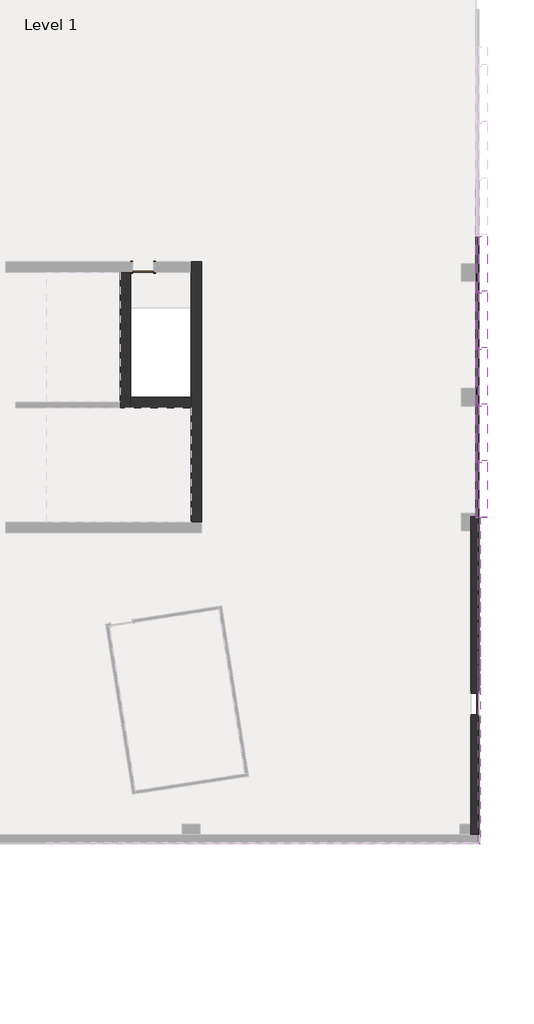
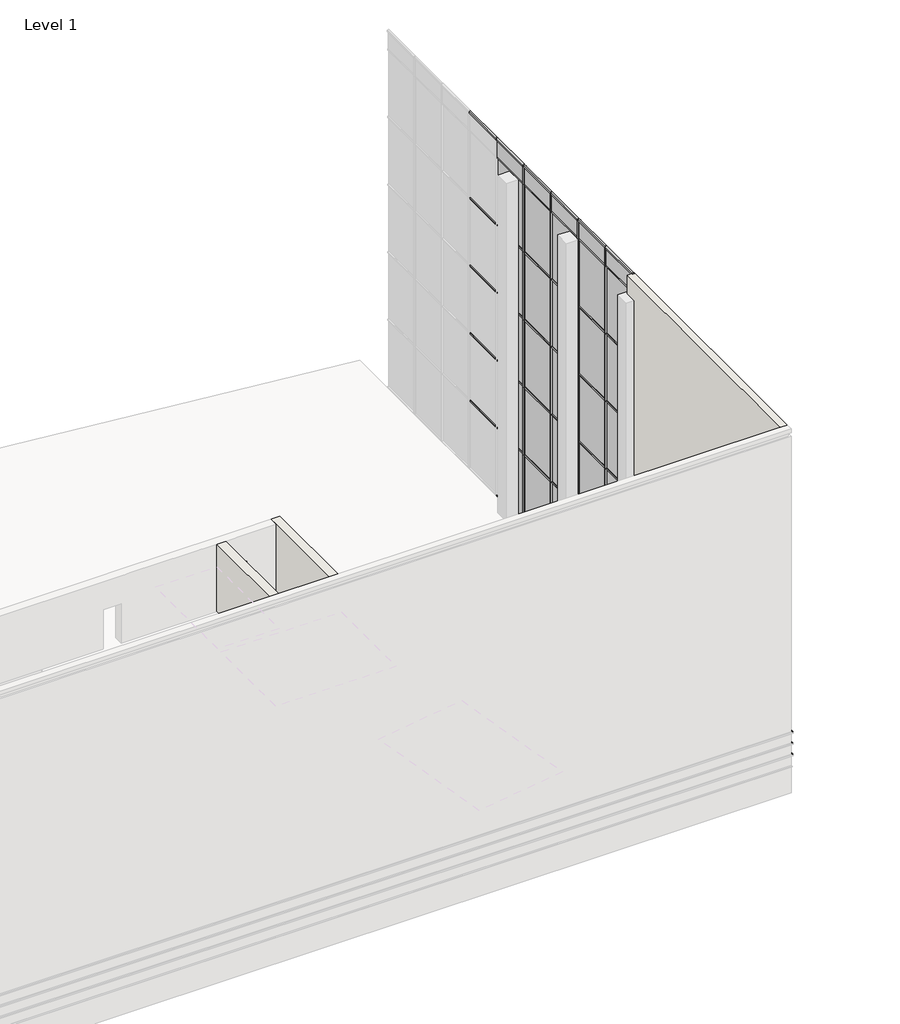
# One storey, part 8 of 23: 70 members, 30 plates, 4 walls, 3 proxies, 1 door.
"""IFC4 building model written with IfcOpenShell, lengths in millimetres."""

from ifc_helpers import new_model, si_unit, frame, origin, origin_with_axes, place, context, project, spatial, polyline, outline, extrude, faceted_brep, transform, mapped, element, save
from components import door_3c99239a, member_4178592a, member_8dc9af40, member_0491a5d0, member_26e31a6d, member_a26b4311, member_810865a4, member_90793d7c, member_64b167af, system_panel_glazed_bb983545, system_panel_solid_a8b18003

model = new_model("IFC4")

# Units and contexts
model_context = context("Model", 3, world=origin())
ifc_project = project(units=[si_unit("LENGTHUNIT", "METRE", prefix="MILLI")], contexts=[model_context])

# Site, building, storey
site = spatial("IfcSite", under=ifc_project)
building = spatial("IfcBuilding", under=site)
storey = spatial("IfcBuildingStorey", under=building, Name="Level 1", Elevation=0.0)

# Proxies
placement = place(None, origin())
element("IfcBuildingElementProxy", 1, Name="Reveals", at=placement, inside=storey, context=model_context, shape_type="SweptSolid", body=[
    extrude(outline(polyline([(15157.6054088, -14142.3728492), (15249.6804088, -14142.3728492), (15249.6804088, -21686.0488327), (15157.6054088, -21686.0488327), (15157.6054088, -14142.3728492)])), frame((0.0, 0.0, 1625.6), z_axis=(0.0, 0.0, 1.0), x_axis=(1.0, 0.0, 0.0)), (0.0, 0.0, 1.0), 67.7333333),
    extrude(outline(polyline([(15157.6054088, -22600.4488327), (15249.6804088, -22600.4488327), (15249.6804088, -28148.8853492), (15157.6054088, -28056.8103492), (15157.6054088, -22600.4488327)])), frame((0.0, 0.0, 1625.6), z_axis=(0.0, 0.0, 1.0), x_axis=(1.0, 0.0, 0.0)), (0.0, 0.0, 1.0), 67.7333333),
])
element("IfcBuildingElementProxy", 2, Name="Reveals", at=placement, inside=storey, context=model_context, shape_type="SweptSolid", body=[
    extrude(outline(polyline([(15157.6054088, -14142.3728492), (15249.6804088, -14142.3728492), (15249.6804088, -28148.8853492), (15157.6054088, -28056.8103492), (15157.6054088, -14142.3728492)])), frame((0.0, 0.0, 2235.2), z_axis=(0.0, 0.0, 1.0), x_axis=(1.0, 0.0, 0.0)), (0.0, 0.0, 1.0), 67.7333333),
])
element("IfcBuildingElementProxy", 3, Name="Reveals", at=placement, inside=storey, context=model_context, shape_type="SweptSolid", body=[
    extrude(outline(polyline([(15157.6054088, -14142.3728492), (15249.6804088, -14142.3728492), (15249.6804088, -28148.8853492), (15157.6054088, -28056.8103492), (15157.6054088, -14142.3728492)])), frame((0.0, 0.0, 2844.8), z_axis=(0.0, 0.0, 1.0), x_axis=(1.0, 0.0, 0.0)), (0.0, 0.0, 1.0), 67.7333333),
])

# Door
door_shape = door_3c99239a(model_context)
element("IfcDoor", 4, ObjectType="Single-Flush : 36\" x 84\"", at=placement, inside=storey, context=model_context, shape_type="MappedRepresentation", body=[
    mapped(door_shape, transform((817.7000645, -3469.6103492, 0.0), x_axis=(-1.0, 0.0, 0.0), y_axis=(0.0, -1.0, 0.0), z_axis=(0.0, 0.0, 1.0))),
])

# Members
member_shape = member_4178592a(model_context)
element("IfcMember", 5, ObjectType="Quad Corner Mullion : 5\" x 5\" Quad Corner", at=placement, inside=storey, context=model_context, shape_type="MappedRepresentation", body=[
    mapped(member_shape, transform((15106.8054088, -14174.1228492, 19304.0), x_axis=(0.0, 0.0, 1.0), y_axis=(-1.0, 0.0, 0.0), z_axis=(0.0, -1.0, 0.0))),
])
element("IfcMember", 6, ObjectType="Quad Corner Mullion : 5\" x 5\" Quad Corner", at=placement, inside=storey, context=model_context, shape_type="MappedRepresentation", body=[
    mapped(member_shape, transform((15106.8054088, -2083.3335112, 19304.0), x_axis=(0.0, 0.0, 1.0), y_axis=(-1.0, 0.0, 0.0), z_axis=(0.0, -1.0, 0.0))),
])
element("IfcMember", 7, ObjectType="Quad Corner Mullion : 5\" x 5\" Quad Corner", at=placement, inside=storey, context=model_context, shape_type="MappedRepresentation", body=[
    mapped(member_shape, transform((15106.8054088, -4501.4913788, 19304.0), x_axis=(0.0, 0.0, 1.0), y_axis=(-1.0, 0.0, 0.0), z_axis=(0.0, -1.0, 0.0))),
])
element("IfcMember", 8, ObjectType="Quad Corner Mullion : 5\" x 5\" Quad Corner", at=placement, inside=storey, context=model_context, shape_type="MappedRepresentation", body=[
    mapped(member_shape, transform((15106.8054088, -6919.6492464, 19304.0), x_axis=(0.0, 0.0, 1.0), y_axis=(-1.0, 0.0, 0.0), z_axis=(0.0, -1.0, 0.0))),
])
element("IfcMember", 9, ObjectType="Quad Corner Mullion : 5\" x 5\" Quad Corner", at=placement, inside=storey, context=model_context, shape_type="MappedRepresentation", body=[
    mapped(member_shape, transform((15106.8054088, -9337.807114, 19304.0), x_axis=(0.0, 0.0, 1.0), y_axis=(-1.0, 0.0, 0.0), z_axis=(0.0, -1.0, 0.0))),
])
element("IfcMember", 10, ObjectType="Quad Corner Mullion : 5\" x 5\" Quad Corner", at=placement, inside=storey, context=model_context, shape_type="MappedRepresentation", body=[
    mapped(member_shape, transform((15106.8054088, -11755.9649816, 19304.0), x_axis=(0.0, 0.0, 1.0), y_axis=(-1.0, 0.0, 0.0), z_axis=(0.0, -1.0, 0.0))),
])
element("IfcMember", 11, ObjectType="Quad Corner Mullion : 5\" x 5\" Quad Corner", at=placement, inside=storey, context=model_context, shape_type="MappedRepresentation", body=[
    mapped(member_shape, transform((15106.8054088, -2146.8335112, 0.0), x_axis=(0.0, 0.0, -1.0), y_axis=(-1.0, 0.0, 0.0), z_axis=(0.0, 1.0, 0.0))),
])
element("IfcMember", 12, ObjectType="Quad Corner Mullion : 5\" x 5\" Quad Corner", at=placement, inside=storey, context=model_context, shape_type="MappedRepresentation", body=[
    mapped(member_shape, transform((15106.8054088, -4564.9913788, 0.0), x_axis=(0.0, 0.0, -1.0), y_axis=(-1.0, 0.0, 0.0), z_axis=(0.0, 1.0, 0.0))),
])
element("IfcMember", 13, ObjectType="Quad Corner Mullion : 5\" x 5\" Quad Corner", at=placement, inside=storey, context=model_context, shape_type="MappedRepresentation", body=[
    mapped(member_shape, transform((15106.8054088, -6983.1492464, 0.0), x_axis=(0.0, 0.0, -1.0), y_axis=(-1.0, 0.0, 0.0), z_axis=(0.0, 1.0, 0.0))),
])
element("IfcMember", 14, ObjectType="Quad Corner Mullion : 5\" x 5\" Quad Corner", at=placement, inside=storey, context=model_context, shape_type="MappedRepresentation", body=[
    mapped(member_shape, transform((15106.8054088, -9401.307114, 0.0), x_axis=(0.0, 0.0, -1.0), y_axis=(-1.0, 0.0, 0.0), z_axis=(0.0, 1.0, 0.0))),
])
element("IfcMember", 15, ObjectType="Quad Corner Mullion : 5\" x 5\" Quad Corner", at=placement, inside=storey, context=model_context, shape_type="MappedRepresentation", body=[
    mapped(member_shape, transform((15106.8054088, -11819.4649816, 0.0), x_axis=(0.0, 0.0, -1.0), y_axis=(-1.0, 0.0, 0.0), z_axis=(0.0, 1.0, 0.0))),
])
member_2_shape = member_8dc9af40(model_context)
element("IfcMember", 16, ObjectType="Rectangular Mullion : 1.5\" x 2.5\" rectangular", at=placement, inside=storey, context=model_context, shape_type="MappedRepresentation", body=[
    mapped(member_2_shape, transform((15106.8054088, -14212.2228492, 3666.6228811), x_axis=(0.0, -1.0, 0.0), y_axis=(-1.0, 0.0, 0.0), z_axis=(0.0, 0.0, -1.0))),
])
element("IfcMember", 17, ObjectType="Rectangular Mullion : 1.5\" x 2.5\" rectangular", at=placement, inside=storey, context=model_context, shape_type="MappedRepresentation", body=[
    mapped(member_2_shape, transform((15106.8054088, -14212.2228492, 7324.2228811), x_axis=(0.0, -1.0, 0.0), y_axis=(-1.0, 0.0, 0.0), z_axis=(0.0, 0.0, -1.0))),
])
element("IfcMember", 18, ObjectType="Rectangular Mullion : 1.5\" x 2.5\" rectangular", at=placement, inside=storey, context=model_context, shape_type="MappedRepresentation", body=[
    mapped(member_2_shape, transform((15106.8054088, -14212.2228492, 10981.8228811), x_axis=(0.0, -1.0, 0.0), y_axis=(-1.0, 0.0, 0.0), z_axis=(0.0, 0.0, -1.0))),
])
element("IfcMember", 19, ObjectType="Rectangular Mullion : 1.5\" x 2.5\" rectangular", at=placement, inside=storey, context=model_context, shape_type="MappedRepresentation", body=[
    mapped(member_2_shape, transform((15106.8054088, -14212.2228492, 14639.4228811), x_axis=(0.0, -1.0, 0.0), y_axis=(-1.0, 0.0, 0.0), z_axis=(0.0, 0.0, -1.0))),
])
member_3_shape = member_0491a5d0(model_context)
element("IfcMember", 20, ObjectType="Rectangular Mullion : 1.5\" x 2.5\" rectangular", at=placement, inside=storey, context=model_context, shape_type="MappedRepresentation", body=[
    mapped(member_3_shape, transform((15106.8054088, -14212.2228492, 0.0), x_axis=(0.0, -1.0, 0.0), y_axis=(-1.0, 0.0, 0.0), z_axis=(0.0, 0.0, -1.0))),
])
member_4_shape = member_26e31a6d(model_context)
element("IfcMember", 21, ObjectType="Rectangular Mullion : 1.5\" x 2.5\" rectangular", at=placement, inside=storey, context=model_context, shape_type="MappedRepresentation", body=[
    mapped(member_4_shape, transform((15106.8054088, -14212.2228492, 18297.0228811), x_axis=(0.0, -1.0, 0.0), y_axis=(-1.0, 0.0, 0.0), z_axis=(0.0, 0.0, -1.0))),
])
member_5_shape = member_a26b4311(model_context)
element("IfcMember", 22, ObjectType="Rectangular Mullion : 2.5\" x 18\" rectangular", at=placement, inside=storey, context=model_context, shape_type="MappedRepresentation", body=[
    mapped(member_5_shape, transform((15106.8054088, -4501.4913788, 3666.6228811), x_axis=(0.0, 0.0, 1.0), y_axis=(-1.0, 0.0, 0.0), z_axis=(0.0, -1.0, 0.0))),
])
element("IfcMember", 23, ObjectType="Rectangular Mullion : 2.5\" x 18\" rectangular", at=placement, inside=storey, context=model_context, shape_type="MappedRepresentation", body=[
    mapped(member_5_shape, transform((15106.8054088, -2083.3335112, 3666.6228811), x_axis=(0.0, 0.0, 1.0), y_axis=(-1.0, 0.0, 0.0), z_axis=(0.0, -1.0, 0.0))),
])
element("IfcMember", 24, ObjectType="Rectangular Mullion : 2.5\" x 18\" rectangular", at=placement, inside=storey, context=model_context, shape_type="MappedRepresentation", body=[
    mapped(member_5_shape, transform((15106.8054088, -6919.6492464, 3666.6228811), x_axis=(0.0, 0.0, 1.0), y_axis=(-1.0, 0.0, 0.0), z_axis=(0.0, -1.0, 0.0))),
])
element("IfcMember", 25, ObjectType="Rectangular Mullion : 2.5\" x 18\" rectangular", at=placement, inside=storey, context=model_context, shape_type="MappedRepresentation", body=[
    mapped(member_5_shape, transform((15106.8054088, -9337.807114, 3666.6228811), x_axis=(0.0, 0.0, 1.0), y_axis=(-1.0, 0.0, 0.0), z_axis=(0.0, -1.0, 0.0))),
])
element("IfcMember", 26, ObjectType="Rectangular Mullion : 2.5\" x 18\" rectangular", at=placement, inside=storey, context=model_context, shape_type="MappedRepresentation", body=[
    mapped(member_5_shape, transform((15106.8054088, -11755.9649816, 3666.6228811), x_axis=(0.0, 0.0, 1.0), y_axis=(-1.0, 0.0, 0.0), z_axis=(0.0, -1.0, 0.0))),
])
element("IfcMember", 27, ObjectType="Rectangular Mullion : 2.5\" x 18\" rectangular", at=placement, inside=storey, context=model_context, shape_type="MappedRepresentation", body=[
    mapped(member_5_shape, transform((15106.8054088, -14174.1228492, 3666.6228811), x_axis=(0.0, 0.0, 1.0), y_axis=(-1.0, 0.0, 0.0), z_axis=(0.0, -1.0, 0.0))),
])
element("IfcMember", 28, ObjectType="Rectangular Mullion : 2.5\" x 18\" rectangular", at=placement, inside=storey, context=model_context, shape_type="MappedRepresentation", body=[
    mapped(member_5_shape, transform((15106.8054088, -4501.4913788, 7324.2228811), x_axis=(0.0, 0.0, 1.0), y_axis=(-1.0, 0.0, 0.0), z_axis=(0.0, -1.0, 0.0))),
])
element("IfcMember", 29, ObjectType="Rectangular Mullion : 2.5\" x 18\" rectangular", at=placement, inside=storey, context=model_context, shape_type="MappedRepresentation", body=[
    mapped(member_5_shape, transform((15106.8054088, -2083.3335112, 7324.2228811), x_axis=(0.0, 0.0, 1.0), y_axis=(-1.0, 0.0, 0.0), z_axis=(0.0, -1.0, 0.0))),
])
element("IfcMember", 30, ObjectType="Rectangular Mullion : 2.5\" x 18\" rectangular", at=placement, inside=storey, context=model_context, shape_type="MappedRepresentation", body=[
    mapped(member_5_shape, transform((15106.8054088, -6919.6492464, 7324.2228811), x_axis=(0.0, 0.0, 1.0), y_axis=(-1.0, 0.0, 0.0), z_axis=(0.0, -1.0, 0.0))),
])
element("IfcMember", 31, ObjectType="Rectangular Mullion : 2.5\" x 18\" rectangular", at=placement, inside=storey, context=model_context, shape_type="MappedRepresentation", body=[
    mapped(member_5_shape, transform((15106.8054088, -9337.807114, 7324.2228811), x_axis=(0.0, 0.0, 1.0), y_axis=(-1.0, 0.0, 0.0), z_axis=(0.0, -1.0, 0.0))),
])
element("IfcMember", 32, ObjectType="Rectangular Mullion : 2.5\" x 18\" rectangular", at=placement, inside=storey, context=model_context, shape_type="MappedRepresentation", body=[
    mapped(member_5_shape, transform((15106.8054088, -11755.9649816, 7324.2228811), x_axis=(0.0, 0.0, 1.0), y_axis=(-1.0, 0.0, 0.0), z_axis=(0.0, -1.0, 0.0))),
])
element("IfcMember", 33, ObjectType="Rectangular Mullion : 2.5\" x 18\" rectangular", at=placement, inside=storey, context=model_context, shape_type="MappedRepresentation", body=[
    mapped(member_5_shape, transform((15106.8054088, -14174.1228492, 7324.2228811), x_axis=(0.0, 0.0, 1.0), y_axis=(-1.0, 0.0, 0.0), z_axis=(0.0, -1.0, 0.0))),
])
element("IfcMember", 34, ObjectType="Rectangular Mullion : 2.5\" x 18\" rectangular", at=placement, inside=storey, context=model_context, shape_type="MappedRepresentation", body=[
    mapped(member_5_shape, transform((15106.8054088, -4501.4913788, 10981.8228811), x_axis=(0.0, 0.0, 1.0), y_axis=(-1.0, 0.0, 0.0), z_axis=(0.0, -1.0, 0.0))),
])
element("IfcMember", 35, ObjectType="Rectangular Mullion : 2.5\" x 18\" rectangular", at=placement, inside=storey, context=model_context, shape_type="MappedRepresentation", body=[
    mapped(member_5_shape, transform((15106.8054088, -2083.3335112, 10981.8228811), x_axis=(0.0, 0.0, 1.0), y_axis=(-1.0, 0.0, 0.0), z_axis=(0.0, -1.0, 0.0))),
])
element("IfcMember", 36, ObjectType="Rectangular Mullion : 2.5\" x 18\" rectangular", at=placement, inside=storey, context=model_context, shape_type="MappedRepresentation", body=[
    mapped(member_5_shape, transform((15106.8054088, -6919.6492464, 10981.8228811), x_axis=(0.0, 0.0, 1.0), y_axis=(-1.0, 0.0, 0.0), z_axis=(0.0, -1.0, 0.0))),
])
element("IfcMember", 37, ObjectType="Rectangular Mullion : 2.5\" x 18\" rectangular", at=placement, inside=storey, context=model_context, shape_type="MappedRepresentation", body=[
    mapped(member_5_shape, transform((15106.8054088, -9337.807114, 10981.8228811), x_axis=(0.0, 0.0, 1.0), y_axis=(-1.0, 0.0, 0.0), z_axis=(0.0, -1.0, 0.0))),
])
element("IfcMember", 38, ObjectType="Rectangular Mullion : 2.5\" x 18\" rectangular", at=placement, inside=storey, context=model_context, shape_type="MappedRepresentation", body=[
    mapped(member_5_shape, transform((15106.8054088, -11755.9649816, 10981.8228811), x_axis=(0.0, 0.0, 1.0), y_axis=(-1.0, 0.0, 0.0), z_axis=(0.0, -1.0, 0.0))),
])
element("IfcMember", 39, ObjectType="Rectangular Mullion : 2.5\" x 18\" rectangular", at=placement, inside=storey, context=model_context, shape_type="MappedRepresentation", body=[
    mapped(member_5_shape, transform((15106.8054088, -14174.1228492, 10981.8228811), x_axis=(0.0, 0.0, 1.0), y_axis=(-1.0, 0.0, 0.0), z_axis=(0.0, -1.0, 0.0))),
])
element("IfcMember", 40, ObjectType="Rectangular Mullion : 2.5\" x 18\" rectangular", at=placement, inside=storey, context=model_context, shape_type="MappedRepresentation", body=[
    mapped(member_5_shape, transform((15106.8054088, -4501.4913788, 14639.4228811), x_axis=(0.0, 0.0, 1.0), y_axis=(-1.0, 0.0, 0.0), z_axis=(0.0, -1.0, 0.0))),
])
element("IfcMember", 41, ObjectType="Rectangular Mullion : 2.5\" x 18\" rectangular", at=placement, inside=storey, context=model_context, shape_type="MappedRepresentation", body=[
    mapped(member_5_shape, transform((15106.8054088, -2083.3335112, 14639.4228811), x_axis=(0.0, 0.0, 1.0), y_axis=(-1.0, 0.0, 0.0), z_axis=(0.0, -1.0, 0.0))),
])
element("IfcMember", 42, ObjectType="Rectangular Mullion : 2.5\" x 18\" rectangular", at=placement, inside=storey, context=model_context, shape_type="MappedRepresentation", body=[
    mapped(member_5_shape, transform((15106.8054088, -6919.6492464, 14639.4228811), x_axis=(0.0, 0.0, 1.0), y_axis=(-1.0, 0.0, 0.0), z_axis=(0.0, -1.0, 0.0))),
])
element("IfcMember", 43, ObjectType="Rectangular Mullion : 2.5\" x 18\" rectangular", at=placement, inside=storey, context=model_context, shape_type="MappedRepresentation", body=[
    mapped(member_5_shape, transform((15106.8054088, -9337.807114, 14639.4228811), x_axis=(0.0, 0.0, 1.0), y_axis=(-1.0, 0.0, 0.0), z_axis=(0.0, -1.0, 0.0))),
])
element("IfcMember", 44, ObjectType="Rectangular Mullion : 2.5\" x 18\" rectangular", at=placement, inside=storey, context=model_context, shape_type="MappedRepresentation", body=[
    mapped(member_5_shape, transform((15106.8054088, -11755.9649816, 14639.4228811), x_axis=(0.0, 0.0, 1.0), y_axis=(-1.0, 0.0, 0.0), z_axis=(0.0, -1.0, 0.0))),
])
element("IfcMember", 45, ObjectType="Rectangular Mullion : 2.5\" x 18\" rectangular", at=placement, inside=storey, context=model_context, shape_type="MappedRepresentation", body=[
    mapped(member_5_shape, transform((15106.8054088, -14174.1228492, 14639.4228811), x_axis=(0.0, 0.0, 1.0), y_axis=(-1.0, 0.0, 0.0), z_axis=(0.0, -1.0, 0.0))),
])
element("IfcMember", 46, ObjectType="Rectangular Mullion : 2.5\" x 18\" rectangular", at=placement, inside=storey, context=model_context, shape_type="MappedRepresentation", body=[
    mapped(member_5_shape, transform((15106.8054088, -4501.4913788, 18297.0228811), x_axis=(0.0, 0.0, 1.0), y_axis=(-1.0, 0.0, 0.0), z_axis=(0.0, -1.0, 0.0))),
])
element("IfcMember", 47, ObjectType="Rectangular Mullion : 2.5\" x 18\" rectangular", at=placement, inside=storey, context=model_context, shape_type="MappedRepresentation", body=[
    mapped(member_5_shape, transform((15106.8054088, -6919.6492464, 18297.0228811), x_axis=(0.0, 0.0, 1.0), y_axis=(-1.0, 0.0, 0.0), z_axis=(0.0, -1.0, 0.0))),
])
element("IfcMember", 48, ObjectType="Rectangular Mullion : 2.5\" x 18\" rectangular", at=placement, inside=storey, context=model_context, shape_type="MappedRepresentation", body=[
    mapped(member_5_shape, transform((15106.8054088, -9337.807114, 18297.0228811), x_axis=(0.0, 0.0, 1.0), y_axis=(-1.0, 0.0, 0.0), z_axis=(0.0, -1.0, 0.0))),
])
element("IfcMember", 49, ObjectType="Rectangular Mullion : 2.5\" x 18\" rectangular", at=placement, inside=storey, context=model_context, shape_type="MappedRepresentation", body=[
    mapped(member_5_shape, transform((15106.8054088, -11755.9649816, 18297.0228811), x_axis=(0.0, 0.0, 1.0), y_axis=(-1.0, 0.0, 0.0), z_axis=(0.0, -1.0, 0.0))),
])
element("IfcMember", 50, ObjectType="Rectangular Mullion : 2.5\" x 18\" rectangular", at=placement, inside=storey, context=model_context, shape_type="MappedRepresentation", body=[
    mapped(member_5_shape, transform((15106.8054088, -14174.1228492, 18297.0228811), x_axis=(0.0, 0.0, 1.0), y_axis=(-1.0, 0.0, 0.0), z_axis=(0.0, -1.0, 0.0))),
])
member_6_shape = member_810865a4(model_context)
element("IfcMember", 51, ObjectType="Rectangular Mullion : 2.5\" x 5\" rectangular", at=placement, inside=storey, context=model_context, shape_type="MappedRepresentation", body=[
    mapped(member_6_shape, transform((15106.8054088, -9369.557114, 3666.6228811), x_axis=(0.0, -1.0, 0.0), y_axis=(-1.0, 0.0, 0.0), z_axis=(0.0, 0.0, -1.0))),
])
element("IfcMember", 52, ObjectType="Rectangular Mullion : 2.5\" x 5\" rectangular", at=placement, inside=storey, context=model_context, shape_type="MappedRepresentation", body=[
    mapped(member_6_shape, transform((15106.8054088, -4533.2413788, 3666.6228811), x_axis=(0.0, -1.0, 0.0), y_axis=(-1.0, 0.0, 0.0), z_axis=(0.0, 0.0, -1.0))),
])
element("IfcMember", 53, ObjectType="Rectangular Mullion : 2.5\" x 5\" rectangular", at=placement, inside=storey, context=model_context, shape_type="MappedRepresentation", body=[
    mapped(member_6_shape, transform((15106.8054088, -6951.3992464, 3666.6228811), x_axis=(0.0, -1.0, 0.0), y_axis=(-1.0, 0.0, 0.0), z_axis=(0.0, 0.0, -1.0))),
])
element("IfcMember", 54, ObjectType="Rectangular Mullion : 2.5\" x 5\" rectangular", at=placement, inside=storey, context=model_context, shape_type="MappedRepresentation", body=[
    mapped(member_6_shape, transform((15106.8054088, -11787.7149816, 3666.6228811), x_axis=(0.0, -1.0, 0.0), y_axis=(-1.0, 0.0, 0.0), z_axis=(0.0, 0.0, -1.0))),
])
element("IfcMember", 55, ObjectType="Rectangular Mullion : 2.5\" x 5\" rectangular", at=placement, inside=storey, context=model_context, shape_type="MappedRepresentation", body=[
    mapped(member_6_shape, transform((15106.8054088, -9369.557114, 7324.2228811), x_axis=(0.0, -1.0, 0.0), y_axis=(-1.0, 0.0, 0.0), z_axis=(0.0, 0.0, -1.0))),
])
element("IfcMember", 56, ObjectType="Rectangular Mullion : 2.5\" x 5\" rectangular", at=placement, inside=storey, context=model_context, shape_type="MappedRepresentation", body=[
    mapped(member_6_shape, transform((15106.8054088, -4533.2413788, 7324.2228811), x_axis=(0.0, -1.0, 0.0), y_axis=(-1.0, 0.0, 0.0), z_axis=(0.0, 0.0, -1.0))),
])
element("IfcMember", 57, ObjectType="Rectangular Mullion : 2.5\" x 5\" rectangular", at=placement, inside=storey, context=model_context, shape_type="MappedRepresentation", body=[
    mapped(member_6_shape, transform((15106.8054088, -6951.3992464, 7324.2228811), x_axis=(0.0, -1.0, 0.0), y_axis=(-1.0, 0.0, 0.0), z_axis=(0.0, 0.0, -1.0))),
])
element("IfcMember", 58, ObjectType="Rectangular Mullion : 2.5\" x 5\" rectangular", at=placement, inside=storey, context=model_context, shape_type="MappedRepresentation", body=[
    mapped(member_6_shape, transform((15106.8054088, -11787.7149816, 7324.2228811), x_axis=(0.0, -1.0, 0.0), y_axis=(-1.0, 0.0, 0.0), z_axis=(0.0, 0.0, -1.0))),
])
element("IfcMember", 59, ObjectType="Rectangular Mullion : 2.5\" x 5\" rectangular", at=placement, inside=storey, context=model_context, shape_type="MappedRepresentation", body=[
    mapped(member_6_shape, transform((15106.8054088, -9369.557114, 10981.8228811), x_axis=(0.0, -1.0, 0.0), y_axis=(-1.0, 0.0, 0.0), z_axis=(0.0, 0.0, -1.0))),
])
element("IfcMember", 60, ObjectType="Rectangular Mullion : 2.5\" x 5\" rectangular", at=placement, inside=storey, context=model_context, shape_type="MappedRepresentation", body=[
    mapped(member_6_shape, transform((15106.8054088, -4533.2413788, 10981.8228811), x_axis=(0.0, -1.0, 0.0), y_axis=(-1.0, 0.0, 0.0), z_axis=(0.0, 0.0, -1.0))),
])
element("IfcMember", 61, ObjectType="Rectangular Mullion : 2.5\" x 5\" rectangular", at=placement, inside=storey, context=model_context, shape_type="MappedRepresentation", body=[
    mapped(member_6_shape, transform((15106.8054088, -6951.3992464, 10981.8228811), x_axis=(0.0, -1.0, 0.0), y_axis=(-1.0, 0.0, 0.0), z_axis=(0.0, 0.0, -1.0))),
])
element("IfcMember", 62, ObjectType="Rectangular Mullion : 2.5\" x 5\" rectangular", at=placement, inside=storey, context=model_context, shape_type="MappedRepresentation", body=[
    mapped(member_6_shape, transform((15106.8054088, -11787.7149816, 10981.8228811), x_axis=(0.0, -1.0, 0.0), y_axis=(-1.0, 0.0, 0.0), z_axis=(0.0, 0.0, -1.0))),
])
element("IfcMember", 63, ObjectType="Rectangular Mullion : 2.5\" x 5\" rectangular", at=placement, inside=storey, context=model_context, shape_type="MappedRepresentation", body=[
    mapped(member_6_shape, transform((15106.8054088, -9369.557114, 14639.4228811), x_axis=(0.0, -1.0, 0.0), y_axis=(-1.0, 0.0, 0.0), z_axis=(0.0, 0.0, -1.0))),
])
element("IfcMember", 64, ObjectType="Rectangular Mullion : 2.5\" x 5\" rectangular", at=placement, inside=storey, context=model_context, shape_type="MappedRepresentation", body=[
    mapped(member_6_shape, transform((15106.8054088, -4533.2413788, 14639.4228811), x_axis=(0.0, -1.0, 0.0), y_axis=(-1.0, 0.0, 0.0), z_axis=(0.0, 0.0, -1.0))),
])
element("IfcMember", 65, ObjectType="Rectangular Mullion : 2.5\" x 5\" rectangular", at=placement, inside=storey, context=model_context, shape_type="MappedRepresentation", body=[
    mapped(member_6_shape, transform((15106.8054088, -6951.3992464, 14639.4228811), x_axis=(0.0, -1.0, 0.0), y_axis=(-1.0, 0.0, 0.0), z_axis=(0.0, 0.0, -1.0))),
])
element("IfcMember", 66, ObjectType="Rectangular Mullion : 2.5\" x 5\" rectangular", at=placement, inside=storey, context=model_context, shape_type="MappedRepresentation", body=[
    mapped(member_6_shape, transform((15106.8054088, -11787.7149816, 14639.4228811), x_axis=(0.0, -1.0, 0.0), y_axis=(-1.0, 0.0, 0.0), z_axis=(0.0, 0.0, -1.0))),
])
member_7_shape = member_90793d7c(model_context)
element("IfcMember", 67, ObjectType="Rectangular Mullion : 2.5\" x 5\" rectangular", at=placement, inside=storey, context=model_context, shape_type="MappedRepresentation", body=[
    mapped(member_7_shape, transform((15106.8054088, -9369.557114, 0.0), x_axis=(0.0, -1.0, 0.0), y_axis=(-1.0, 0.0, 0.0), z_axis=(0.0, 0.0, -1.0))),
])
element("IfcMember", 68, ObjectType="Rectangular Mullion : 2.5\" x 5\" rectangular", at=placement, inside=storey, context=model_context, shape_type="MappedRepresentation", body=[
    mapped(member_7_shape, transform((15106.8054088, -4533.2413788, 0.0), x_axis=(0.0, -1.0, 0.0), y_axis=(-1.0, 0.0, 0.0), z_axis=(0.0, 0.0, -1.0))),
])
element("IfcMember", 69, ObjectType="Rectangular Mullion : 2.5\" x 5\" rectangular", at=placement, inside=storey, context=model_context, shape_type="MappedRepresentation", body=[
    mapped(member_7_shape, transform((15106.8054088, -6951.3992464, 0.0), x_axis=(0.0, -1.0, 0.0), y_axis=(-1.0, 0.0, 0.0), z_axis=(0.0, 0.0, -1.0))),
])
element("IfcMember", 70, ObjectType="Rectangular Mullion : 2.5\" x 5\" rectangular", at=placement, inside=storey, context=model_context, shape_type="MappedRepresentation", body=[
    mapped(member_7_shape, transform((15106.8054088, -11787.7149816, 0.0), x_axis=(0.0, -1.0, 0.0), y_axis=(-1.0, 0.0, 0.0), z_axis=(0.0, 0.0, -1.0))),
])
member_8_shape = member_64b167af(model_context)
element("IfcMember", 71, ObjectType="Rectangular Mullion : 2.5\" x 5\" rectangular", at=placement, inside=storey, context=model_context, shape_type="MappedRepresentation", body=[
    mapped(member_8_shape, transform((15106.8054088, -9369.557114, 18297.0228811), x_axis=(0.0, -1.0, 0.0), y_axis=(-1.0, 0.0, 0.0), z_axis=(0.0, 0.0, -1.0))),
])
element("IfcMember", 72, ObjectType="Rectangular Mullion : 2.5\" x 5\" rectangular", at=placement, inside=storey, context=model_context, shape_type="MappedRepresentation", body=[
    mapped(member_8_shape, transform((15106.8054088, -4533.2413788, 18297.0228811), x_axis=(0.0, -1.0, 0.0), y_axis=(-1.0, 0.0, 0.0), z_axis=(0.0, 0.0, -1.0))),
])
element("IfcMember", 73, ObjectType="Rectangular Mullion : 2.5\" x 5\" rectangular", at=placement, inside=storey, context=model_context, shape_type="MappedRepresentation", body=[
    mapped(member_8_shape, transform((15106.8054088, -6951.3992464, 18297.0228811), x_axis=(0.0, -1.0, 0.0), y_axis=(-1.0, 0.0, 0.0), z_axis=(0.0, 0.0, -1.0))),
])
element("IfcMember", 74, ObjectType="Rectangular Mullion : 2.5\" x 5\" rectangular", at=placement, inside=storey, context=model_context, shape_type="MappedRepresentation", body=[
    mapped(member_8_shape, transform((15106.8054088, -11787.7149816, 18297.0228811), x_axis=(0.0, -1.0, 0.0), y_axis=(-1.0, 0.0, 0.0), z_axis=(0.0, 0.0, -1.0))),
])

# Plates
system_panel_glazed_shape = system_panel_glazed_bb983545(model_context)
element("IfcPlate", 75, ObjectType="System Panel : Glazed", at=placement, inside=storey, context=model_context, shape_type="MappedRepresentation", body=[
    mapped(system_panel_glazed_shape, transform((15106.8054088, -3324.162445, 40.7728811), x_axis=(0.0, -1.0, 0.0), y_axis=(1.0, 0.0, 0.0), z_axis=(0.0, 0.0, 1.0))),
])
element("IfcPlate", 76, ObjectType="System Panel : Glazed", at=placement, inside=storey, context=model_context, shape_type="MappedRepresentation", body=[
    mapped(system_panel_glazed_shape, transform((15106.8054088, -3324.162445, 3698.3728811), x_axis=(0.0, -1.0, 0.0), y_axis=(1.0, 0.0, 0.0), z_axis=(0.0, 0.0, 1.0))),
])
element("IfcPlate", 77, ObjectType="System Panel : Glazed", at=placement, inside=storey, context=model_context, shape_type="MappedRepresentation", body=[
    mapped(system_panel_glazed_shape, transform((15106.8054088, -3324.162445, 7355.9728811), x_axis=(0.0, -1.0, 0.0), y_axis=(1.0, 0.0, 0.0), z_axis=(0.0, 0.0, 1.0))),
])
element("IfcPlate", 78, ObjectType="System Panel : Glazed", at=placement, inside=storey, context=model_context, shape_type="MappedRepresentation", body=[
    mapped(system_panel_glazed_shape, transform((15106.8054088, -3324.162445, 11013.5728811), x_axis=(0.0, -1.0, 0.0), y_axis=(1.0, 0.0, 0.0), z_axis=(0.0, 0.0, 1.0))),
])
element("IfcPlate", 79, ObjectType="System Panel : Glazed", at=placement, inside=storey, context=model_context, shape_type="MappedRepresentation", body=[
    mapped(system_panel_glazed_shape, transform((15106.8054088, -3324.162445, 14671.1728811), x_axis=(0.0, -1.0, 0.0), y_axis=(1.0, 0.0, 0.0), z_axis=(0.0, 0.0, 1.0))),
])
element("IfcPlate", 80, ObjectType="System Panel : Glazed", at=placement, inside=storey, context=model_context, shape_type="MappedRepresentation", body=[
    mapped(system_panel_glazed_shape, transform((15106.8054088, -5742.3203126, 40.7728811), x_axis=(0.0, -1.0, 0.0), y_axis=(1.0, 0.0, 0.0), z_axis=(0.0, 0.0, 1.0))),
])
element("IfcPlate", 81, ObjectType="System Panel : Glazed", at=placement, inside=storey, context=model_context, shape_type="MappedRepresentation", body=[
    mapped(system_panel_glazed_shape, transform((15106.8054088, -5742.3203126, 3698.3728811), x_axis=(0.0, -1.0, 0.0), y_axis=(1.0, 0.0, 0.0), z_axis=(0.0, 0.0, 1.0))),
])
element("IfcPlate", 82, ObjectType="System Panel : Glazed", at=placement, inside=storey, context=model_context, shape_type="MappedRepresentation", body=[
    mapped(system_panel_glazed_shape, transform((15106.8054088, -5742.3203126, 7355.9728811), x_axis=(0.0, -1.0, 0.0), y_axis=(1.0, 0.0, 0.0), z_axis=(0.0, 0.0, 1.0))),
])
element("IfcPlate", 83, ObjectType="System Panel : Glazed", at=placement, inside=storey, context=model_context, shape_type="MappedRepresentation", body=[
    mapped(system_panel_glazed_shape, transform((15106.8054088, -5742.3203126, 11013.5728811), x_axis=(0.0, -1.0, 0.0), y_axis=(1.0, 0.0, 0.0), z_axis=(0.0, 0.0, 1.0))),
])
element("IfcPlate", 84, ObjectType="System Panel : Glazed", at=placement, inside=storey, context=model_context, shape_type="MappedRepresentation", body=[
    mapped(system_panel_glazed_shape, transform((15106.8054088, -5742.3203126, 14671.1728811), x_axis=(0.0, -1.0, 0.0), y_axis=(1.0, 0.0, 0.0), z_axis=(0.0, 0.0, 1.0))),
])
element("IfcPlate", 85, ObjectType="System Panel : Glazed", at=placement, inside=storey, context=model_context, shape_type="MappedRepresentation", body=[
    mapped(system_panel_glazed_shape, transform((15106.8054088, -8160.4781802, 40.7728811), x_axis=(0.0, -1.0, 0.0), y_axis=(1.0, 0.0, 0.0), z_axis=(0.0, 0.0, 1.0))),
])
element("IfcPlate", 86, ObjectType="System Panel : Glazed", at=placement, inside=storey, context=model_context, shape_type="MappedRepresentation", body=[
    mapped(system_panel_glazed_shape, transform((15106.8054088, -8160.4781802, 3698.3728811), x_axis=(0.0, -1.0, 0.0), y_axis=(1.0, 0.0, 0.0), z_axis=(0.0, 0.0, 1.0))),
])
element("IfcPlate", 87, ObjectType="System Panel : Glazed", at=placement, inside=storey, context=model_context, shape_type="MappedRepresentation", body=[
    mapped(system_panel_glazed_shape, transform((15106.8054088, -8160.4781802, 7355.9728811), x_axis=(0.0, -1.0, 0.0), y_axis=(1.0, 0.0, 0.0), z_axis=(0.0, 0.0, 1.0))),
])
element("IfcPlate", 88, ObjectType="System Panel : Glazed", at=placement, inside=storey, context=model_context, shape_type="MappedRepresentation", body=[
    mapped(system_panel_glazed_shape, transform((15106.8054088, -8160.4781802, 11013.5728811), x_axis=(0.0, -1.0, 0.0), y_axis=(1.0, 0.0, 0.0), z_axis=(0.0, 0.0, 1.0))),
])
element("IfcPlate", 89, ObjectType="System Panel : Glazed", at=placement, inside=storey, context=model_context, shape_type="MappedRepresentation", body=[
    mapped(system_panel_glazed_shape, transform((15106.8054088, -8160.4781802, 14671.1728811), x_axis=(0.0, -1.0, 0.0), y_axis=(1.0, 0.0, 0.0), z_axis=(0.0, 0.0, 1.0))),
])
element("IfcPlate", 90, ObjectType="System Panel : Glazed", at=placement, inside=storey, context=model_context, shape_type="MappedRepresentation", body=[
    mapped(system_panel_glazed_shape, transform((15106.8054088, -10578.6360478, 40.7728811), x_axis=(0.0, -1.0, 0.0), y_axis=(1.0, 0.0, 0.0), z_axis=(0.0, 0.0, 1.0))),
])
element("IfcPlate", 91, ObjectType="System Panel : Glazed", at=placement, inside=storey, context=model_context, shape_type="MappedRepresentation", body=[
    mapped(system_panel_glazed_shape, transform((15106.8054088, -10578.6360478, 3698.3728811), x_axis=(0.0, -1.0, 0.0), y_axis=(1.0, 0.0, 0.0), z_axis=(0.0, 0.0, 1.0))),
])
element("IfcPlate", 92, ObjectType="System Panel : Glazed", at=placement, inside=storey, context=model_context, shape_type="MappedRepresentation", body=[
    mapped(system_panel_glazed_shape, transform((15106.8054088, -10578.6360478, 7355.9728811), x_axis=(0.0, -1.0, 0.0), y_axis=(1.0, 0.0, 0.0), z_axis=(0.0, 0.0, 1.0))),
])
element("IfcPlate", 93, ObjectType="System Panel : Glazed", at=placement, inside=storey, context=model_context, shape_type="MappedRepresentation", body=[
    mapped(system_panel_glazed_shape, transform((15106.8054088, -10578.6360478, 11013.5728811), x_axis=(0.0, -1.0, 0.0), y_axis=(1.0, 0.0, 0.0), z_axis=(0.0, 0.0, 1.0))),
])
element("IfcPlate", 94, ObjectType="System Panel : Glazed", at=placement, inside=storey, context=model_context, shape_type="MappedRepresentation", body=[
    mapped(system_panel_glazed_shape, transform((15106.8054088, -10578.6360478, 14671.1728811), x_axis=(0.0, -1.0, 0.0), y_axis=(1.0, 0.0, 0.0), z_axis=(0.0, 0.0, 1.0))),
])
element("IfcPlate", 95, ObjectType="System Panel : Glazed", at=placement, inside=storey, context=model_context, shape_type="MappedRepresentation", body=[
    mapped(system_panel_glazed_shape, transform((15106.8054088, -12996.7939154, 40.7728811), x_axis=(0.0, -1.0, 0.0), y_axis=(1.0, 0.0, 0.0), z_axis=(0.0, 0.0, 1.0))),
])
element("IfcPlate", 96, ObjectType="System Panel : Glazed", at=placement, inside=storey, context=model_context, shape_type="MappedRepresentation", body=[
    mapped(system_panel_glazed_shape, transform((15106.8054088, -12996.7939154, 3698.3728811), x_axis=(0.0, -1.0, 0.0), y_axis=(1.0, 0.0, 0.0), z_axis=(0.0, 0.0, 1.0))),
])
element("IfcPlate", 97, ObjectType="System Panel : Glazed", at=placement, inside=storey, context=model_context, shape_type="MappedRepresentation", body=[
    mapped(system_panel_glazed_shape, transform((15106.8054088, -12996.7939154, 7355.9728811), x_axis=(0.0, -1.0, 0.0), y_axis=(1.0, 0.0, 0.0), z_axis=(0.0, 0.0, 1.0))),
])
element("IfcPlate", 98, ObjectType="System Panel : Glazed", at=placement, inside=storey, context=model_context, shape_type="MappedRepresentation", body=[
    mapped(system_panel_glazed_shape, transform((15106.8054088, -12996.7939154, 11013.5728811), x_axis=(0.0, -1.0, 0.0), y_axis=(1.0, 0.0, 0.0), z_axis=(0.0, 0.0, 1.0))),
])
element("IfcPlate", 99, ObjectType="System Panel : Glazed", at=placement, inside=storey, context=model_context, shape_type="MappedRepresentation", body=[
    mapped(system_panel_glazed_shape, transform((15106.8054088, -12996.7939154, 14671.1728811), x_axis=(0.0, -1.0, 0.0), y_axis=(1.0, 0.0, 0.0), z_axis=(0.0, 0.0, 1.0))),
])
system_panel_solid_shape = system_panel_solid_a8b18003(model_context)
element("IfcPlate", 100, ObjectType="System Panel : Solid", at=placement, inside=storey, context=model_context, shape_type="MappedRepresentation", body=[
    mapped(system_panel_solid_shape, transform((15106.8054088, -3324.162445, 18328.7728811), x_axis=(0.0, -1.0, 0.0), y_axis=(1.0, 0.0, 0.0), z_axis=(0.0, 0.0, 1.0))),
])
element("IfcPlate", 101, ObjectType="System Panel : Solid", at=placement, inside=storey, context=model_context, shape_type="MappedRepresentation", body=[
    mapped(system_panel_solid_shape, transform((15106.8054088, -5742.3203126, 18328.7728811), x_axis=(0.0, -1.0, 0.0), y_axis=(1.0, 0.0, 0.0), z_axis=(0.0, 0.0, 1.0))),
])
element("IfcPlate", 102, ObjectType="System Panel : Solid", at=placement, inside=storey, context=model_context, shape_type="MappedRepresentation", body=[
    mapped(system_panel_solid_shape, transform((15106.8054088, -8160.4781802, 18328.7728811), x_axis=(0.0, -1.0, 0.0), y_axis=(1.0, 0.0, 0.0), z_axis=(0.0, 0.0, 1.0))),
])
element("IfcPlate", 103, ObjectType="System Panel : Solid", at=placement, inside=storey, context=model_context, shape_type="MappedRepresentation", body=[
    mapped(system_panel_solid_shape, transform((15106.8054088, -10578.6360478, 18328.7728811), x_axis=(0.0, -1.0, 0.0), y_axis=(1.0, 0.0, 0.0), z_axis=(0.0, 0.0, 1.0))),
])
element("IfcPlate", 104, ObjectType="System Panel : Solid", at=placement, inside=storey, context=model_context, shape_type="MappedRepresentation", body=[
    mapped(system_panel_solid_shape, transform((15106.8054088, -12996.7939154, 18328.7728811), x_axis=(0.0, -1.0, 0.0), y_axis=(1.0, 0.0, 0.0), z_axis=(0.0, 0.0, 1.0))),
])

# Walls
element("IfcWall", 105, ObjectType="Core-shaft 18\" Concrete", at=placement, inside=storey, context=model_context, shape_type="Brep", body=[
    faceted_brep([(2867.8429217, -3241.0103492, 0.0), (2867.8429217, -3698.2103492, 0.0), (2867.8429217, -9032.2103492, 0.0), (2867.8429217, -9489.4103492, 0.0), (2867.8429217, -14366.2103492, 0.0), (2867.8429217, -14366.2103492, 3657.6), (2867.8429217, -9489.4103492, 3657.6), (2867.8429217, -9032.2103492, 3657.6), (2867.8429217, -3698.2103492, 3657.6), (2867.8429217, -3241.0103492, 3657.6), (3325.0429217, -3241.0103492, 0.0), (3325.0429217, -3241.0103492, 3657.6), (3325.0429217, -14366.2103492, 3657.6), (3325.0429217, -14366.2103492, 0.0)], [[[0, 1, 2, 3, 4, 5, 6, 7, 8, 9]], [[10, 11, 12, 13]], [[4, 3, 2, 1, 0, 10, 13]], [[9, 8, 7, 6, 5, 12, 11]], [[0, 9, 11, 10]], [[5, 4, 13, 12]]]),
])
element("IfcWall", 106, ObjectType="Core-shaft 18\" Concrete", at=placement, inside=storey, context=model_context, shape_type="Brep", body=[
    faceted_brep([(-172.8999355, -3698.2103492, 0.0), (-172.8999355, -9235.4103492, 0.0), (-172.8999355, -9489.4103492, 0.0), (-172.8999355, -9489.4103492, 3657.6), (-172.8999355, -9235.4103492, 3657.6), (-172.8999355, -3698.2103492, 3657.6), (284.3000645, -3698.2103492, 0.0), (284.3000645, -3698.2103492, 3657.6), (284.3000645, -9032.2103492, 3657.6), (284.3000645, -9489.4103492, 3657.6), (284.3000645, -9489.4103492, 0.0), (284.3000645, -9032.2103492, 0.0)], [[[0, 1, 2, 3, 4, 5]], [[6, 7, 8, 9, 10, 11]], [[2, 1, 0, 6, 11, 10]], [[5, 4, 3, 9, 8, 7]], [[3, 2, 10, 9]], [[0, 5, 7, 6]]]),
])
element("IfcWall", 107, ObjectType="Core-shaft 18\" Concrete", at=placement, inside=storey, context=model_context, shape_type="SweptSolid", body=[
    extrude(outline(polyline([(2867.8429217, -9489.4103492), (284.3000645, -9489.4103492), (284.3000645, -9032.2103492), (2867.8429217, -9032.2103492), (2867.8429217, -9489.4103492)])), origin_with_axes(), (0.0, 0.0, 1.0), 3657.6),
])
element("IfcWall", 108, ObjectType="Exterior - Brick and CMU on MTL. Stud", at=placement, inside=storey, context=model_context, shape_type="Brep", body=[
    faceted_brep([(14830.5804088, -27729.7853492, 19304.0), (14830.5804088, -14142.3728492, 19304.0), (14830.5804088, -14142.3728492, 7315.2), (14830.5804088, -14142.3728492, 3657.6), (14830.5804088, -14142.3728492, 0.0), (14830.5804088, -21686.0488327, 0.0), (14830.5804088, -21686.0488327, 2133.6), (14830.5804088, -22600.4488327, 2133.6), (14830.5804088, -22600.4488327, 0.0), (14830.5804088, -27729.7853492, 0.0), (14830.5804088, -16656.9728492, 5943.6), (14830.5804088, -16656.9728492, 4572.0), (14830.5804088, -15132.9728492, 4572.0), (14830.5804088, -15132.9728492, 5943.6), (14830.5804088, -19095.3728492, 5943.6), (14830.5804088, -19095.3728492, 4572.0), (14830.5804088, -17571.3728492, 4572.0), (14830.5804088, -17571.3728492, 5943.6), (15183.0054088, -14142.3728492, 19304.0), (15183.0054088, -27729.7853492, 19304.0), (15183.0054088, -27729.7853492, 19100.8), (15183.0054088, -14142.3728492, 19100.8), (15183.0054088, -21686.0488327, 0.0), (15183.0054088, -22600.4488327, 0.0), (15183.0054088, -22600.4488327, 1016.0), (15183.0054088, -27729.7853492, 1016.0), (15183.0054088, -27729.7853492, 0.0), (15183.0054088, -27990.1353492, 0.0), (15183.0054088, -27990.1353492, -406.4), (15183.0054088, -14142.3728492, -406.4), (15183.0054088, -14142.3728492, 1016.0), (15183.0054088, -21686.0488327, 1016.0), (15183.0054088, -22600.4488327, 2133.6), (15183.0054088, -21686.0488327, 2133.6), (15183.0054088, -21686.0488327, 1693.3333333), (15183.0054088, -14142.3728492, 1693.3333333), (15183.0054088, -14142.3728492, 2235.2), (15183.0054088, -27729.7853492, 2235.2), (15183.0054088, -27729.7853492, 1693.3333333), (15183.0054088, -22600.4488327, 1693.3333333), (15183.0054088, -14142.3728492, 1625.6), (15183.0054088, -21686.0488327, 1625.6), (15183.0054088, -21686.0488327, 1085.85), (15183.0054088, -14142.3728492, 1085.85), (15183.0054088, -22600.4488327, 1625.6), (15183.0054088, -27729.7853492, 1625.6), (15183.0054088, -27729.7853492, 1085.85), (15183.0054088, -22600.4488327, 1085.85), (15183.0054088, -27729.7853492, 2302.9333333), (15183.0054088, -14142.3728492, 2302.9333333), (15183.0054088, -14142.3728492, 2844.8), (15183.0054088, -27729.7853492, 2844.8), (15183.0054088, -27729.7853492, 2912.5333333), (15183.0054088, -14142.3728492, 2912.5333333), (15183.0054088, -14142.3728492, 18897.6), (15183.0054088, -27729.7853492, 18897.6), (15183.0054088, -16656.9728492, 4572.0), (15183.0054088, -16656.9728492, 5943.6), (15183.0054088, -15132.9728492, 5943.6), (15183.0054088, -15132.9728492, 4572.0), (15183.0054088, -19095.3728492, 4572.0), (15183.0054088, -19095.3728492, 5943.6), (15183.0054088, -17571.3728492, 5943.6), (15183.0054088, -17571.3728492, 4572.0), (15090.9304088, -22600.4488327, 0.0), (15090.9304088, -27729.7853492, 0.0), (15090.9304088, -14142.3728492, 0.0), (15090.9304088, -21686.0488327, 0.0), (15090.9304088, -27990.1353492, 0.0), (15090.9304088, -14142.3728492, -406.4), (15090.9304088, -27990.1353492, -406.4), (15157.6054088, -22600.4488327, 1693.3333333), (15157.6054088, -22600.4488327, 1625.6), (15090.9304088, -22600.4488327, 1085.85), (15090.9304088, -22600.4488327, 1016.0), (15090.9304088, -21686.0488327, 1016.0), (15090.9304088, -21686.0488327, 1085.85), (15157.6054088, -21686.0488327, 1625.6), (15157.6054088, -21686.0488327, 1693.3333333), (15157.6054088, -14142.3728492, 1693.3333333), (15157.6054088, -14142.3728492, 1625.6), (15157.6054088, -27729.7853492, 1693.3333333), (15157.6054088, -27729.7853492, 1625.6), (15157.6054088, -27729.7853492, 2302.9333333), (15157.6054088, -14142.3728492, 2302.9333333), (15157.6054088, -14142.3728492, 2235.2), (15157.6054088, -27729.7853492, 2235.2), (15157.6054088, -27729.7853492, 2912.5333333), (15157.6054088, -14142.3728492, 2912.5333333), (15157.6054088, -14142.3728492, 2844.8), (15157.6054088, -27729.7853492, 2844.8), (15090.9304088, -14142.3728492, 1085.85), (15090.9304088, -14142.3728492, 1016.0), (15090.9304088, -27729.7853492, 1085.85), (15090.9304088, -27729.7853492, 1016.0), (15090.9304088, -14142.3728492, 18897.6), (15090.9304088, -27729.7853492, 18897.6), (15090.9304088, -14142.3728492, 19100.8), (15090.9304088, -27729.7853492, 19100.8)], [[[0, 1, 2, 3, 4, 5, 6, 7, 8, 9], [10, 11, 12, 13], [14, 15, 16, 17]], [[18, 19, 20, 21]], [[22, 23, 24, 25, 26, 27, 28, 29, 30, 31]], [[32, 33, 34, 35, 36, 37, 38, 39]], [[40, 41, 42, 43]], [[44, 45, 46, 47]], [[48, 49, 50, 51]], [[52, 53, 54, 55], [56, 57, 58, 59], [60, 61, 62, 63]], [[1, 0, 19, 18]], [[9, 8, 64, 65]], [[5, 4, 66, 67]], [[68, 65, 64, 67, 66, 69, 70]], [[23, 22, 67, 64]], [[7, 32, 39, 71, 72, 44, 47, 73, 74, 24, 23, 64, 8]], [[32, 7, 6, 33]], [[33, 6, 5, 67, 22, 31, 75, 76, 42, 41, 77, 78, 34]], [[78, 79, 35, 34]], [[80, 77, 41, 40]], [[79, 78, 77, 80]], [[81, 71, 39, 38]], [[72, 82, 45, 44]], [[71, 81, 82, 72]], [[83, 84, 49, 48]], [[85, 86, 37, 36]], [[84, 83, 86, 85]], [[87, 88, 53, 52]], [[89, 90, 51, 50]], [[88, 87, 90, 89]], [[76, 91, 43, 42]], [[92, 75, 31, 30]], [[91, 76, 75, 92]], [[93, 73, 47, 46]], [[74, 94, 25, 24]], [[73, 93, 94, 74]], [[95, 96, 55, 54]], [[96, 95, 97, 98]], [[98, 97, 21, 20]], [[0, 9, 65, 26, 25, 94, 93, 46, 45, 82, 81, 38, 37, 86, 83, 48, 51, 90, 87, 52, 55, 96, 98, 20, 19]], [[27, 26, 65, 68]], [[70, 28, 27, 68]], [[11, 10, 57, 56]], [[12, 11, 56, 59]], [[13, 12, 59, 58]], [[10, 13, 58, 57]], [[15, 14, 61, 60]], [[16, 15, 60, 63]], [[17, 16, 63, 62]], [[14, 17, 62, 61]], [[4, 3, 2, 1, 18, 21, 97, 95, 54, 53, 88, 89, 50, 49, 84, 85, 36, 35, 79, 80, 40, 43, 91, 92, 30, 29, 69, 66]], [[28, 70, 69, 29]]]),
])

save(model, "model.ifc")
